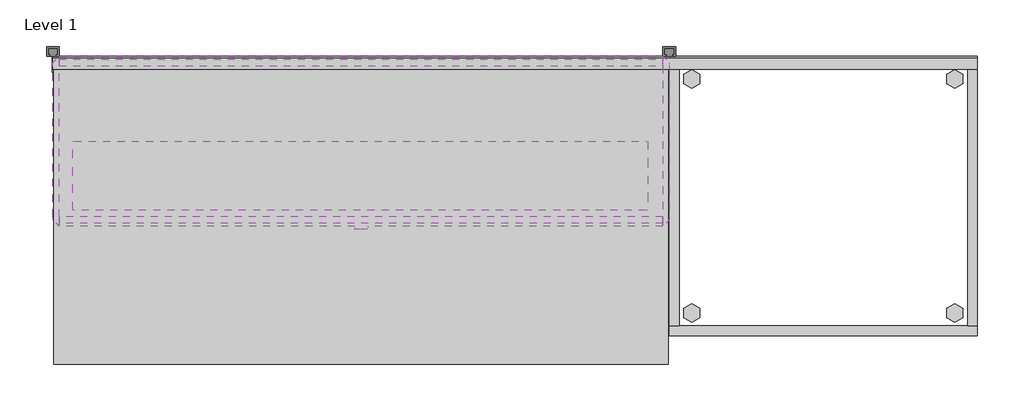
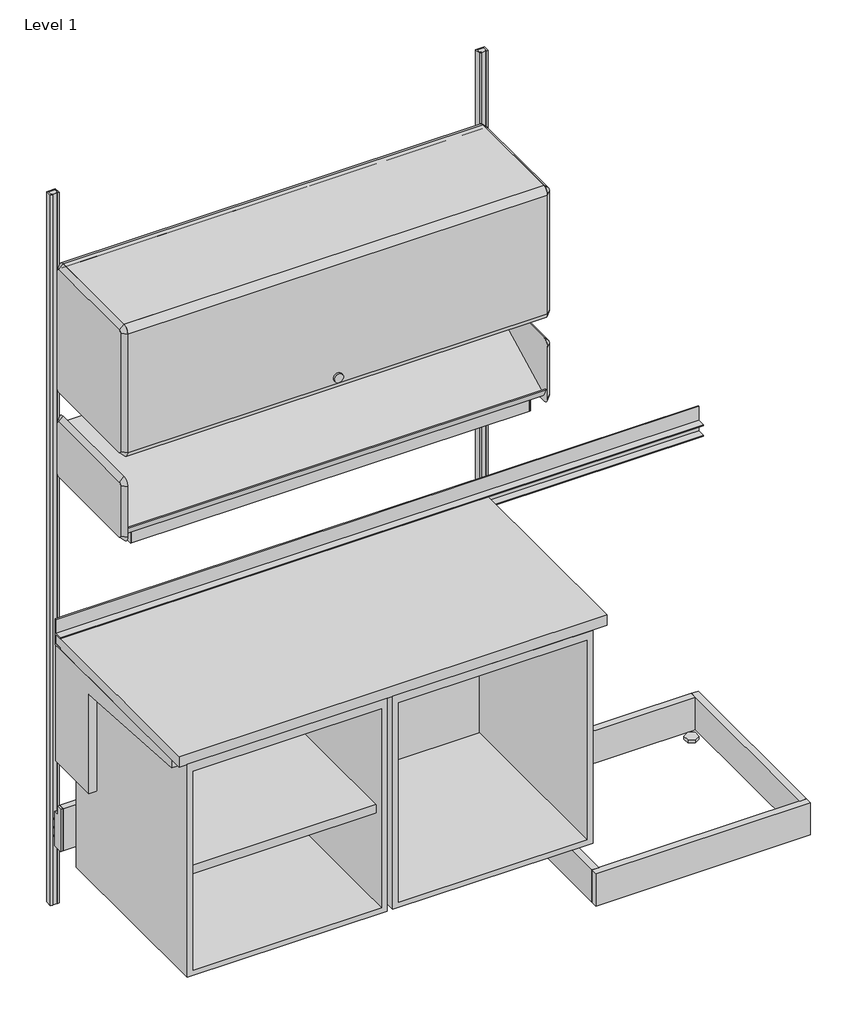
# One storey, incomplete: 13 furniture elements, 1 light fixture.
"""IFC4 building model written with IfcOpenShell, lengths in millimetres."""

import ifcopenshell
import ifcopenshell.guid

model = None  # the IFC model being written
_history = None  # IfcOwnerHistory: only IFC2X3 demands one
_inside = {}  # id of a spatial element -> (the spatial element, [elements in it])
_under = {}  # id of a project, library or spatial element -> (it, [spatial elements below it])
_declared = {}  # id of a project -> (the project, [libraries it declares])
_typed = {}  # id of a type object -> (the type object, [elements of that type])
_made_of = {}  # id of a material, layer set ... -> (it, [elements and type objects made of it])


def new_model(schema):
    """Start an empty IFC model of exactly this schema.

    Asked for "IFC4X3", IfcOpenShell would pick the latest addendum, in which some entities
    have other attributes; the version numbers below select the first issue.
    IFC2X3 requires an IfcOwnerHistory on every rooted entity: one is made here for all.
    """
    global model, _history
    if schema == "IFC4X3":
        model = ifcopenshell.file(schema_version=(4, 3, 0, 0))
    else:
        model = ifcopenshell.file(schema=schema)
    _inside.clear()
    _under.clear()
    _declared.clear()
    _typed.clear()
    _made_of.clear()
    _history = None
    if model.schema == "IFC2X3":
        org = make("IfcOrganization", Name="unknown")
        user = make(
            "IfcPersonAndOrganization",
            ThePerson=make("IfcPerson", FamilyName="unknown"),
            TheOrganization=org,
        )
        app = make(
            "IfcApplication",
            ApplicationDeveloper=org,
            Version="unknown",
            ApplicationFullName="unknown",
            ApplicationIdentifier="unknown",
        )
        _history = make(
            "IfcOwnerHistory",
            OwningUser=user,
            OwningApplication=app,
            ChangeAction="ADDED",
            CreationDate=0,
        )
    return model


def make(cls, **values):
    """One entity of the class cls with the attributes given. An attribute that is None is left unset."""
    return model.create_entity(
        cls, **{name: value for name, value in values.items() if value is not None}
    )


def rooted(cls, **values):
    """An entity with a GlobalId (a new one), such as an element, a storey or a relation."""
    return make(cls, GlobalId=ifcopenshell.guid.new(), OwnerHistory=_history, **values)


def si_unit(unit_type, name, prefix=None):
    """IfcSIUnit, for example si_unit("LENGTHUNIT", "METRE", prefix="MILLI")."""
    return make("IfcSIUnit", UnitType=unit_type, Prefix=prefix, Name=name)


def assignment(units):
    """IfcUnitAssignment: the units of a project."""
    return None if units is None else make("IfcUnitAssignment", Units=units)


def point(xyz):
    """IfcCartesianPoint."""
    return None if xyz is None else make("IfcCartesianPoint", Coordinates=xyz)


def direction(xyz):
    """IfcDirection."""
    return None if xyz is None else make("IfcDirection", DirectionRatios=xyz)


def frame(location, z_axis=None, x_axis=None):
    """IfcAxis2Placement3D, a coordinate frame: its origin and axes. An axis left out is left unset."""
    return make(
        "IfcAxis2Placement3D",
        Location=point(location),
        Axis=direction(z_axis),
        RefDirection=direction(x_axis),
    )


def frame_2d(location, x_axis=None):
    """IfcAxis2Placement2D, a coordinate frame in the plane: its origin and x axis."""
    return make(
        "IfcAxis2Placement2D", Location=point(location), RefDirection=direction(x_axis)
    )


def origin():
    """The frame at (0, 0, 0) with its axes left unset."""
    return frame((0.0, 0.0, 0.0))


def origin_with_axes():
    """The frame at (0, 0, 0) with the z axis (0, 0, 1) and the x axis (1, 0, 0) written out."""
    return frame((0.0, 0.0, 0.0), z_axis=(0.0, 0.0, 1.0), x_axis=(1.0, 0.0, 0.0))


def place(relative_to, where):
    """IfcLocalPlacement: puts the frame where relative to a parent placement (None: the world)."""
    return make(
        "IfcLocalPlacement", PlacementRelTo=relative_to, RelativePlacement=where
    )


def context(
    kind, dimensions, precision=None, world=None, true_north=None, identifier=None
):
    """IfcGeometricRepresentationContext, for example the 3D "Model" context."""
    return make(
        "IfcGeometricRepresentationContext",
        ContextIdentifier=identifier,
        ContextType=kind,
        CoordinateSpaceDimension=dimensions,
        Precision=precision,
        WorldCoordinateSystem=world,
        TrueNorth=true_north,
    )


def project(units=None, contexts=None):
    """IfcProject with its units and contexts."""
    return rooted(
        "IfcProject",
        Name="project",
        RepresentationContexts=contexts,
        UnitsInContext=assignment(units),
    )


def spatial(cls, under=None, at=None, **own):
    """A site, building, storey or space (cls), placed at a placement, below another one or the project."""
    s = rooted(cls, ObjectPlacement=at, **own)
    if under is not None:
        _under.setdefault(under.id(), (under, []))[1].append(s)
    return s


def polyline(points):
    """IfcPolyline through the points."""
    return make("IfcPolyline", Points=[point(p) for p in points])


def circle_curve(where, radius):
    """IfcCircle in the frame where."""
    return make("IfcCircle", Position=where, Radius=radius)


def trimmed(basis, trim1, trim2, sense, master):
    """IfcTrimmedCurve: the piece of a basis curve between two trims."""
    return make(
        "IfcTrimmedCurve",
        BasisCurve=basis,
        Trim1=trim1,
        Trim2=trim2,
        SenseAgreement=sense,
        MasterRepresentation=master,
    )


def segment(curve, same_sense, transition):
    """IfcCompositeCurveSegment."""
    return make(
        "IfcCompositeCurveSegment",
        Transition=transition,
        SameSense=same_sense,
        ParentCurve=curve,
    )


def composite_curve(segments, self_intersect=None):
    """IfcCompositeCurve: segments joined end to end."""
    return make("IfcCompositeCurve", Segments=segments, SelfIntersect=self_intersect)


def outline(outer, holes=None, kind="AREA"):
    """IfcArbitraryClosedProfileDef: a profile drawn as a closed curve; with holes, ...WithVoids."""
    if holes is None:
        return make("IfcArbitraryClosedProfileDef", ProfileType=kind, OuterCurve=outer)
    return make(
        "IfcArbitraryProfileDefWithVoids",
        ProfileType=kind,
        OuterCurve=outer,
        InnerCurves=holes,
    )


def extrude(swept, where, along, depth):
    """IfcExtrudedAreaSolid: the profile swept, set in the frame where, extruded along a direction by depth."""
    return make(
        "IfcExtrudedAreaSolid",
        SweptArea=swept,
        Position=where,
        ExtrudedDirection=direction(along),
        Depth=depth,
    )


def faces_of(points, faces, orient=None, outer=None):
    """IfcFace entities. A face is a list of loops; a loop is a list of indices into points, from 0.

    orient and outer hold one flag for each loop. By default every Orientation is true, the
    first loop of a face is its IfcFaceOuterBound and the others are IfcFaceBound.
    """
    made = []
    for i, loops in enumerate(faces):
        bounds = []
        for j, loop in enumerate(loops):
            is_outer = j == 0 if outer is None else outer[i][j]
            bounds.append(
                make(
                    "IfcFaceOuterBound" if is_outer else "IfcFaceBound",
                    Bound=make("IfcPolyLoop", Polygon=[points[k] for k in loop]),
                    Orientation=True if orient is None else orient[i][j],
                )
            )
        made.append(make("IfcFace", Bounds=bounds))
    return made


def faceted_brep(points, faces, orient=None, outer=None, voids=None):
    """IfcFacetedBrep: a solid bounded by flat faces; with voids (closed shells), ...WithVoids."""
    shared = [point(p) for p in points]
    hull = make("IfcClosedShell", CfsFaces=faces_of(shared, faces, orient, outer))
    if voids is None:
        return make("IfcFacetedBrep", Outer=hull)
    return make(
        "IfcFacetedBrepWithVoids",
        Outer=hull,
        Voids=[
            make(cls, CfsFaces=faces_of(shared, fs, o, b)) for cls, fs, o, b in voids
        ],
    )


def shape(context_of_items, identifier, shape_type, items):
    """IfcShapeRepresentation: the items that make up one representation, for example the "Body"."""
    return make(
        "IfcShapeRepresentation",
        ContextOfItems=context_of_items,
        RepresentationIdentifier=identifier,
        RepresentationType=shape_type,
        Items=items,
    )


def source(mapping_origin, context_of_items, identifier, shape_type, items):
    """IfcRepresentationMap: a shape defined once, which mapped items show again and again."""
    return make(
        "IfcRepresentationMap",
        MappingOrigin=mapping_origin,
        MappedRepresentation=shape(context_of_items, identifier, shape_type, items),
    )


def transform(
    local_origin,
    x_axis=None,
    y_axis=None,
    z_axis=None,
    scale=None,
    scale2=None,
    scale3=None,
    uniform=True,
):
    """IfcCartesianTransformationOperator3D, or its non-uniform kind. x_axis, y_axis, z_axis: its Axis1, 2, 3."""
    if uniform:
        return make(
            "IfcCartesianTransformationOperator3D",
            Axis1=direction(x_axis),
            Axis2=direction(y_axis),
            LocalOrigin=point(local_origin),
            Scale=scale,
            Axis3=direction(z_axis),
        )
    return make(
        "IfcCartesianTransformationOperator3DnonUniform",
        Axis1=direction(x_axis),
        Axis2=direction(y_axis),
        LocalOrigin=point(local_origin),
        Scale=scale,
        Axis3=direction(z_axis),
        Scale2=scale2,
        Scale3=scale3,
    )


def mapped(mapping_source, mapping_target):
    """IfcMappedItem: shows the shape of a source again, moved by a transform."""
    return make(
        "IfcMappedItem", MappingSource=mapping_source, MappingTarget=mapping_target
    )


def made_of(thing, what):
    """Note that an element or type object is made of a material, layer set ...; save() writes the relation."""
    if what is not None:
        _made_of.setdefault(what.id(), (what, []))[1].append(thing)
    return thing


def element(
    cls,
    number,
    at=None,
    inside=None,
    cuts=None,
    type_object=None,
    material=None,
    context=None,
    identifier="Body",
    shape_type=None,
    held_by="IfcProductDefinitionShape",
    body=None,
    shapes=None,
    **own,
):
    """One element of the class cls, such as IfcWall. Its Tag is "e" and its number.

    at: its placement. inside: the storey or other place that contains it. cuts: it is an
    opening in that element (IfcRelVoidsElement). A single representation is given by context,
    identifier, shape_type and body (its items); several are given by shapes. held_by: the class
    of the entity that holds the representations. save() writes the other relations.
    """
    e = rooted(cls, Tag="e%d" % number, ObjectPlacement=at, **own)
    if body is not None:
        shapes = [shape(context, identifier, shape_type, body)]
    if shapes is not None:
        e.Representation = make(held_by, Representations=shapes)
    if inside is not None:
        _inside.setdefault(inside.id(), (inside, []))[1].append(e)
    if cuts is not None:
        rooted(
            "IfcRelVoidsElement", RelatingBuildingElement=cuts, RelatedOpeningElement=e
        )
    if type_object is not None:
        _typed.setdefault(type_object.id(), (type_object, []))[1].append(e)
    return made_of(e, material)


def aggregate(whole, parts):
    """IfcRelAggregates: a whole, such as a stair, and the parts it consists of."""
    return rooted("IfcRelAggregates", RelatingObject=whole, RelatedObjects=parts)


def save(model, path):
    """Write the relations noted so far, then the file.

    IfcRelAggregates (storeys below a building ...), IfcRelContainedInSpatialStructure (elements
    in a storey), IfcRelDefinesByType, IfcRelAssociatesMaterial and IfcRelDeclares: one each for
    every whole, place, type object, material and project.
    """
    for whole, parts in _under.values():
        aggregate(whole, parts)
    for where, things in _inside.values():
        rooted(
            "IfcRelContainedInSpatialStructure",
            RelatedElements=things,
            RelatingStructure=where,
        )
    for kind, things in _typed.values():
        rooted("IfcRelDefinesByType", RelatedObjects=things, RelatingType=kind)
    for what, things in _made_of.values():
        rooted("IfcRelAssociatesMaterial", RelatedObjects=things, RelatingMaterial=what)
    for by, libraries in _declared.values():
        rooted("IfcRelDeclares", RelatingContext=by, RelatedDefinitions=libraries)
    model.write(path)


def plane_surface(at):
    """IfcPlane: the flat surface through the origin of the frame at, square to its z axis."""
    return make("IfcPlane", Position=at)


def revolved_surface(curve, axis_point, axis_direction):
    """IfcSurfaceOfRevolution: the curve turned about the line through axis_point along axis_direction."""
    return make(
        "IfcSurfaceOfRevolution",
        SweptCurve=make("IfcArbitraryOpenProfileDef", ProfileType="CURVE", Curve=curve),
        AxisPosition=make("IfcAxis1Placement", Location=point(axis_point), Axis=direction(axis_direction)),
    )


def advanced_brep(points, edges, surfaces, faces):
    """IfcAdvancedBrep: a solid bounded by faces that lie on surfaces and meet in shared edges.

    An edge is (start, end): straight between two places in points (the first is 0);
    or (start, end, curve); or (start, end, curve, False) where it runs against its curve.
    A face is (place in surfaces, loops), or (place, loops, False) where it looks against
    its surface's normal. A loop lists edges by number (the first is 1), with a minus sign
    where the edge is run from its end to its start. The first loop is the outer one.
    """
    corners = [point(p) for p in points]
    vertices = [make("IfcVertexPoint", VertexGeometry=c) for c in corners]
    made = []
    for start, end, *more in edges:
        made.append(
            make(
                "IfcEdgeCurve",
                EdgeStart=vertices[start],
                EdgeEnd=vertices[end],
                EdgeGeometry=more[0] if more else make("IfcPolyline", Points=[corners[start], corners[end]]),
                SameSense=more[1] if len(more) > 1 else True,
            )
        )
    hull = []
    for where, loops, *sense in faces:
        bounds = []
        for j, loop in enumerate(loops):
            ring = [make("IfcOrientedEdge", EdgeElement=made[abs(k) - 1], Orientation=k > 0) for k in loop]
            bounds.append(
                make(
                    "IfcFaceOuterBound" if j == 0 else "IfcFaceBound",
                    Bound=make("IfcEdgeLoop", EdgeList=ring),
                    Orientation=True,
                )
            )
        hull.append(make("IfcAdvancedFace", Bounds=bounds, FaceSurface=surfaces[where], SameSense=sense[0] if sense else True))
    return make("IfcAdvancedBrep", Outer=make("IfcClosedShell", CfsFaces=hull))


def furniture_8d228605(model_context):
    return source(origin(), model_context, "Body", "SolidModel", [
        extrude(outline(polyline([(-136.525, 1219.2), (158.75, 1219.2), (158.75, 1244.6), (161.925, 1244.6), (161.925, 1200.1152313), (-136.525, 1200.1152313), (-136.525, 1219.2)])), frame((-720.8420045, 0.0, 0.0), z_axis=(1.0, 0.0, 0.0), x_axis=(0.0, 1.0, 0.0)), (0.0, 0.0, 1.0), 1193.8),
        advanced_brep(
        [(472.9579955, -155.575, 1555.75), (472.9579955, -155.575, 1200.15), (485.6579955, -142.875, 1200.15), (485.6579955, -142.875, 1555.75), (485.6579955, 161.925, 1562.1), (485.6579955, -136.525, 1562.1), (485.6579955, -136.525, 1193.8), (485.6579955, 161.925, 1193.8), (485.6579955, 168.275, 1200.15), (485.6579955, 168.275, 1555.75), (472.9579955, -136.525, 1181.1), (472.9579955, 161.925, 1181.1), (472.9579955, 180.975, 1200.15), (472.9579955, 180.975, 1555.75), (472.9579955, 161.925, 1574.8), (472.9579955, -136.525, 1574.8)],
        [
            (0, 1),
            (1, 2),
            (2, 3),
            (3, 0),
            (4, 5),
            (5, 3, circle_curve(frame((485.6579955, -136.525, 1555.75), z_axis=(1.0, 0.0, 0.0), x_axis=(0.0, 0.0, 1.0)), 6.35)),
            (2, 6, circle_curve(frame((485.6579955, -136.525, 1200.15), z_axis=(1.0, 0.0, 0.0), x_axis=(0.0, -1.0, 0.0)), 6.35)),
            (6, 7),
            (7, 8, circle_curve(frame((485.6579955, 161.925, 1200.15), z_axis=(1.0, 0.0, 0.0), x_axis=(0.0, 0.0, -1.0)), 6.35)),
            (8, 9),
            (9, 4, circle_curve(frame((485.6579955, 161.925, 1555.75), z_axis=(1.0, 0.0, 0.0), x_axis=(0.0, 1.0, 0.0)), 6.35)),
            (1, 10, circle_curve(frame((472.9579955, -136.525, 1200.15), z_axis=(1.0, 0.0, 0.0), x_axis=(0.0, -1.0, 0.0)), 19.05)),
            (10, 6),
            (10, 11),
            (11, 7),
            (11, 12, circle_curve(frame((472.9579955, 161.925, 1200.15), z_axis=(1.0, 0.0, 0.0), x_axis=(0.0, 0.0, -1.0)), 19.05)),
            (12, 8),
            (12, 13),
            (13, 9),
            (14, 13, circle_curve(frame((472.9579955, 161.925, 1555.75), z_axis=(-1.0, 0.0, 0.0), x_axis=(0.0, 1.0, 0.0)), 19.05)),
            (0, 15, circle_curve(frame((472.9579955, -136.525, 1555.75), z_axis=(-1.0, 0.0, 0.0), x_axis=(0.0, 0.0, 1.0)), 19.05)),
            (15, 14),
            (15, 5),
            (4, 14),
        ],
        [
            plane_surface(frame((472.9579955, -155.575, 1377.95), z_axis=(0.7071067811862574, -0.7071067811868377, 0.0), x_axis=(0.0, 0.0, -1.0))),
            plane_surface(frame((485.6579955, 12.7, 1377.95), z_axis=(1.0, 0.0, 0.0), x_axis=(0.0, -1.0, 0.0))),
            revolved_surface(polyline([(485.6579955, -142.87499999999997, 1200.15), (472.9579955, -155.575, 1200.15)]), (492.0079955, -136.525, 1200.15), (-1.0, 0.0, 0.0)),
            plane_surface(frame((472.9579955, 12.7, 1181.1), z_axis=(0.7071067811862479, 0.0, -0.7071067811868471), x_axis=(0.0, 1.0, 0.0))),
            revolved_surface(polyline([(485.6579955, 161.925, 1193.8000000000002), (472.9579955, 161.925, 1181.1)]), (492.0079955, 161.925, 1200.15), (-1.0, 0.0, 0.0)),
            plane_surface(frame((472.9579955, 180.975, 1377.95), z_axis=(0.7071067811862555, 0.7071067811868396, 0.0), x_axis=(0.0, 0.0, 1.0))),
            plane_surface(frame((472.9579955, 12.7, 1377.95), z_axis=(-1.0, 0.0, 0.0), x_axis=(0.0, -1.0, 0.0))),
            plane_surface(frame((472.9579955, 12.7, 1574.8), z_axis=(0.7071067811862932, 0.0, 0.7071067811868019), x_axis=(0.0, -1.0, 0.0))),
            revolved_surface(polyline([(485.6579955, -136.525, 1562.1), (472.9579955, -136.525, 1574.8)]), (492.0079955, -136.525, 1555.75), (-1.0, 0.0, 0.0)),
            revolved_surface(polyline([(485.6579955, 168.27499999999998, 1555.75), (472.9579955, 180.975, 1555.75)]), (492.0079955, 161.925, 1555.75), (-1.0, 0.0, 0.0)),
        ],
        [
            (0, [[1, 2, 3, 4]]),
            (1, [[5, 6, -3, 7, 8, 9, 10, 11]]),
            (2, [[12, 13, -7, -2]]),
            (3, [[14, 15, -8, -13]]),
            (4, [[16, 17, -9, -15]]),
            (5, [[18, 19, -10, -17]]),
            (6, [[20, -18, -16, -14, -12, -1, 21, 22]]),
            (7, [[-22, 23, -5, 24]]),
            (8, [[-21, -4, -6, -23]]),
            (9, [[-20, -24, -11, -19]]),
        ],
    ),
        advanced_brep(
        [(-720.8420045, 180.975, 1555.75), (-720.8420045, 180.975, 1200.15), (-733.5420045, 168.275, 1200.15), (-733.5420045, 168.275, 1555.75), (-733.5420045, -136.525, 1562.1), (-733.5420045, 161.925, 1562.1), (-733.5420045, 161.925, 1193.8), (-733.5420045, -136.525, 1193.8), (-733.5420045, -142.875, 1200.15), (-733.5420045, -142.875, 1555.75), (-720.8420045, 161.925, 1181.1), (-720.8420045, -136.525, 1181.1), (-720.8420045, -155.575, 1200.15), (-720.8420045, -155.575, 1555.75), (-720.8420045, -136.525, 1574.8), (-720.8420045, 161.925, 1574.8)],
        [
            (0, 1),
            (1, 2),
            (2, 3),
            (3, 0),
            (4, 5),
            (5, 3, circle_curve(frame((-733.5420045, 161.925, 1555.75), z_axis=(-1.0, 4.822808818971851e-12, 2.32347474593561e-12), x_axis=(2.323422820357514e-12, 0.0, 1.0)), 6.35)),
            (2, 6, circle_curve(frame((-733.5420045, 161.925, 1200.15), z_axis=(-1.0, 1.0604850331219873e-12, 7.204903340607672e-12), x_axis=(1.060440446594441e-12, 1.0, 0.0)), 6.35)),
            (6, 7),
            (7, 8, circle_curve(frame((-733.5420045, -136.525, 1200.15), z_axis=(-1.0, 1.4002132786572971e-12, 0.0), x_axis=(0.0, 0.0, -1.0)), 6.35)),
            (8, 9),
            (9, 4, circle_curve(frame((-733.5420045, -136.525, 1555.75), z_axis=(-1.0, 0.0, 3.048228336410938e-12), x_axis=(0.0, -1.0, 0.0)), 6.35)),
            (1, 10, circle_curve(frame((-720.8420045, 161.925, 1200.15), z_axis=(-1.0, 1.0604850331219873e-12, 7.204903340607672e-12), x_axis=(1.060440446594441e-12, 1.0, 0.0)), 19.05)),
            (10, 6),
            (10, 11),
            (11, 7),
            (11, 12, circle_curve(frame((-720.8420045, -136.525, 1200.15), z_axis=(-1.0, 1.4002132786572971e-12, 0.0), x_axis=(0.0, 0.0, -1.0)), 19.05)),
            (12, 8),
            (12, 13),
            (13, 9),
            (14, 13, circle_curve(frame((-720.8420045, -136.525, 1555.75), z_axis=(1.0, 0.0, -3.048228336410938e-12), x_axis=(0.0, -1.0, 0.0)), 19.05)),
            (0, 15, circle_curve(frame((-720.8420045, 161.925, 1555.75), z_axis=(1.0, -4.822808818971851e-12, -2.32347474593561e-12), x_axis=(2.323422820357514e-12, 0.0, 1.0)), 19.05)),
            (15, 14),
            (15, 5),
            (4, 14),
        ],
        [
            plane_surface(frame((-720.8420045, 180.975, 1377.95), z_axis=(-0.7071067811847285, 0.7071067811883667, 0.0), x_axis=(0.0, 0.0, -1.0))),
            plane_surface(frame((-733.5420045, 12.7, 1377.95), z_axis=(-1.0, 0.0, 0.0), x_axis=(0.0, -1.0, 0.0))),
            revolved_surface(polyline([(-733.5420045, 168.27500000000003, 1200.15), (-720.8420044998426, 180.97500000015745, 1200.15)]), (-739.8920045, 161.925, 1200.15), (1.0, -1.0604850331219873e-12, -7.204903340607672e-12)),
            plane_surface(frame((-720.8420045, 12.7, 1181.1), z_axis=(-0.7071067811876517, 0.0, -0.7071067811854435), x_axis=(0.0, -1.0, 0.0))),
            revolved_surface(polyline([(-733.5420045, -136.525, 1193.8), (-720.8420044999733, -136.525, 1181.0999999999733)]), (-739.8920045, -136.525, 1200.15), (1.0, -1.4002132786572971e-12, 0.0)),
            plane_surface(frame((-720.8420045, -155.575, 1377.95), z_axis=(-0.7071067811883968, -0.7071067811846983, 0.0), x_axis=(0.0, 0.0, 1.0))),
            plane_surface(frame((-720.8420045, 12.7, 1377.95), z_axis=(1.0, 0.0, 0.0), x_axis=(0.0, -1.0, 0.0))),
            plane_surface(frame((-720.8420045, 12.7, 1574.8), z_axis=(-0.7071067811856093, 0.0, 0.7071067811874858), x_axis=(0.0, 1.0, 0.0))),
            revolved_surface(polyline([(-733.5420045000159, 161.925, 1562.0999999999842), (-720.8420044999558, 161.925, 1574.8000000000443)]), (-739.8920045, 161.925, 1555.75), (1.0, -4.822808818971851e-12, -2.32347474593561e-12)),
            revolved_surface(polyline([(-733.5420045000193, -142.87499999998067, 1555.75), (-720.8420045, -155.575, 1555.75)]), (-739.8920045, -136.525, 1555.75), (1.0, 0.0, -3.048228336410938e-12)),
        ],
        [
            (0, [[1, 2, 3, 4]]),
            (1, [[5, 6, -3, 7, 8, 9, 10, 11]]),
            (2, [[12, 13, -7, -2]]),
            (3, [[14, 15, -8, -13]]),
            (4, [[16, 17, -9, -15]]),
            (5, [[18, 19, -10, -17]]),
            (6, [[20, -18, -16, -14, -12, -1, 21, 22]]),
            (7, [[-22, 23, -5, 24]]),
            (8, [[-21, -4, -6, -23]]),
            (9, [[-20, -24, -11, -19]]),
        ],
    ),
    ])


def furniture_ebb16344(model_context):
    return source(origin(), model_context, "Body", "SweptSolid", [
        extrude(outline(composite_curve([segment(polyline([(-136.525, 1562.1), (-136.525, 1574.8), (161.925, 1574.8)]), True, "CONTINUOUS"), segment(trimmed(circle_curve(frame_2d((161.925, 1555.75)), 19.05), [point((161.925, 1574.8))], [point((180.975, 1555.75))], False, "CARTESIAN"), True, "CONTINUOUS"), segment(polyline([(180.975, 1555.75), (168.275, 1555.75)]), True, "CONTINUOUS"), segment(trimmed(circle_curve(frame_2d((161.925, 1555.75)), 6.35), [point((168.275, 1555.75))], [point((161.925, 1562.1))], True, "CARTESIAN"), True, "CONTINUOUS"), segment(polyline([(161.925, 1562.1), (-136.525, 1562.1)]), True, "CONTINUOUS")], self_intersect=False)), frame((-596.9, 0.0, 0.0), z_axis=(1.0, 0.0, 0.0), x_axis=(0.0, 1.0, 0.0)), (0.0, 0.0, 1.0), 1193.8),
        extrude(outline(composite_curve([segment(trimmed(circle_curve(frame_2d((-136.525, 1555.75)), 19.05), [point((-155.575, 1555.75))], [point((-136.525, 1574.8))], False, "CARTESIAN"), True, "CONTINUOUS"), segment(polyline([(-136.525, 1574.8), (-136.525, 1181.1)]), True, "CONTINUOUS"), segment(trimmed(circle_curve(frame_2d((-136.525, 1200.15)), 19.05), [point((-136.525, 1181.1))], [point((-155.575, 1200.15))], False, "CARTESIAN"), True, "CONTINUOUS"), segment(polyline([(-155.575, 1200.15), (-155.575, 1555.75)]), True, "CONTINUOUS")], self_intersect=False)), frame((-596.9, 0.0, 0.0), z_axis=(1.0, 0.0, 0.0), x_axis=(0.0, 1.0, 0.0)), (0.0, 0.0, 1.0), 1193.8),
        extrude(outline(composite_curve([segment(trimmed(circle_curve(frame_2d((1219.1618906, 0.0201199)), 12.7253951), [point((1219.1618906, 12.745515))], [point((1219.1618906, -12.7052752))], False, "CARTESIAN"), True, "CONTINUOUS"), segment(trimmed(circle_curve(frame_2d((1219.1618906, 0.0201199)), 12.7253951), [point((1219.1618906, -12.7052752))], [point((1219.1618906, 12.745515))], False, "CARTESIAN"), True, "CONTINUOUS")], self_intersect=False)), frame((0.0, -161.925, 0.0), z_axis=(0.0, 1.0, 0.0), x_axis=(0.0, 0.0, 1.0)), (0.0, 0.0, 1.0), 6.35),
    ])


def furniture_d92eedc3(model_context):
    return source(origin(), model_context, "Body", "SweptSolid", [
        extrude(outline(polyline([(-3.175, 958.85), (0.0, 958.85), (0.0, 882.65), (-25.4, 882.65), (-25.4, 885.825), (-3.175, 885.825), (-3.175, 914.4), (-25.4, 914.4), (-25.4, 917.575), (-3.175, 917.575), (-3.175, 958.85)])), frame((-914.4, 0.0, 0.0), z_axis=(1.0, 0.0, 0.0), x_axis=(0.0, 1.0, 0.0)), (0.0, 0.0, 1.0), 1828.8),
    ])


def furniture_0d7dd6e3(model_context):
    return source(origin(), model_context, "Body", "Brep", [
        faceted_brep([(-284.1625, -272.8595, 242.8748), (284.1625, -272.8595, 242.8748), (284.1625, -272.8595, 882.65), (-284.1625, -272.8595, 882.65), (267.8811, -272.8595, 259.1562), (-267.8811, -272.8595, 259.1562), (-267.8811, -272.8595, 857.25), (267.8811, -272.8595, 857.25), (267.8811, 256.5781, 259.1562), (-267.8811, 256.5781, 259.1562), (-267.8811, 256.5781, 882.65), (-267.8811, 171.2595, 882.65), (-267.8811, 171.2595, 831.85), (-267.8811, 120.4595, 831.85), (-267.8811, 120.4595, 882.65), (-267.8811, 107.7595, 882.65), (-267.8811, 107.7595, 857.25), (267.8811, 107.7595, 857.25), (267.8811, 107.7595, 882.65), (267.8811, 120.4595, 882.65), (267.8811, 120.4595, 831.85), (267.8811, 171.2595, 831.85), (267.8811, 171.2595, 882.65), (267.8811, 256.5781, 882.65), (-284.1625, 272.8595, 242.8748), (284.1625, 272.8595, 242.8748), (284.1625, 272.8595, 882.65), (284.1625, 171.2595, 882.65), (284.1625, 171.2595, 831.85), (284.1625, 120.4595, 831.85), (284.1625, 120.4595, 882.65), (-284.1625, 120.4595, 882.65), (-284.1625, 272.8595, 882.65), (-284.1625, 171.2595, 882.65), (-284.1625, 120.4595, 831.85), (-284.1625, 171.2595, 831.85)], [[[0, 1, 2, 3], [4, 5, 6, 7]], [[5, 4, 8, 9]], [[6, 5, 9, 10, 11, 12, 13, 14, 15, 16]], [[7, 6, 16, 17]], [[4, 7, 17, 18, 19, 20, 21, 22, 23, 8]], [[1, 0, 24, 25]], [[2, 1, 25, 26, 27, 28, 29, 30]], [[3, 2, 30, 19, 18, 15, 14, 31]], [[26, 32, 33, 11, 10, 23, 22, 27]], [[0, 3, 31, 34, 35, 33, 32, 24]], [[12, 35, 34, 13]], [[28, 21, 20, 29]], [[22, 21, 28, 27]], [[35, 12, 11, 33]], [[14, 13, 34, 31]], [[29, 20, 19, 30]], [[32, 26, 25, 24]], [[10, 9, 8, 23]], [[16, 15, 18, 17]]]),
    ])


def furniture_de886b3f(model_context):
    return source(origin(), model_context, "Body", "SweptSolid", [
        extrude(outline(polyline([(912.8125, 177.8), (912.8125, -431.8), (-303.2125, -431.8), (-303.2125, 177.8), (912.8125, 177.8)])), frame((0.0, 0.0, 882.65), z_axis=(0.0, 0.0, 1.0), x_axis=(1.0, 0.0, 0.0)), (0.0, 0.0, 1.0), 31.75),
        extrude(outline(polyline([(879.475, 63.5), (879.475, 25.4), (-269.875, 25.4), (-269.875, 63.5), (879.475, 63.5)])), frame((0.0, 0.0, 825.5), z_axis=(0.0, 0.0, 1.0), x_axis=(1.0, 0.0, 0.0)), (0.0, 0.0, 1.0), 57.15),
        extrude(outline(polyline([(858.8375, 333.375), (882.65, 333.375), (882.65, 331.7875), (857.25, 331.7875), (857.25, 346.075), (858.8375, 346.075), (858.8375, 333.375)])), frame((0.0, -406.4, 0.0), z_axis=(0.0, 1.0, 0.0), x_axis=(0.0, 0.0, 1.0)), (0.0, 0.0, 1.0), 390.525),
        extrude(outline(polyline([(858.8375, 276.225), (858.8375, 263.525), (857.25, 263.525), (857.25, 277.8125), (882.65, 277.8125), (882.65, 276.225), (858.8375, 276.225)])), frame((0.0, -406.4, 0.0), z_axis=(0.0, 1.0, 0.0), x_axis=(0.0, 0.0, 1.0)), (0.0, 0.0, 1.0), 390.525),
        extrude(outline(polyline([(858.8375, -250.825), (882.65, -250.825), (882.65, -252.4125), (857.25, -252.4125), (857.25, -238.125), (858.8375, -238.125), (858.8375, -250.825)])), frame((0.0, -406.4, 0.0), z_axis=(0.0, 1.0, 0.0), x_axis=(0.0, 0.0, 1.0)), (0.0, 0.0, 1.0), 390.525),
        extrude(outline(polyline([(858.8375, 860.425), (858.8375, 847.725), (857.25, 847.725), (857.25, 862.0125), (882.65, 862.0125), (882.65, 860.425), (858.8375, 860.425)])), frame((0.0, -406.4, 0.0), z_axis=(0.0, 1.0, 0.0), x_axis=(0.0, 0.0, 1.0)), (0.0, 0.0, 1.0), 390.525),
    ])


def furniture_05729c69(model_context):
    return source(origin(), model_context, "Body", "SweptSolid", [
        extrude(outline(polyline([(106.5641996, 262.7913812), (-425.2610004, 262.7913812), (-425.2610004, 797.7915812), (106.5641996, 797.7915812), (106.5641996, 262.7913812)])), frame((0.0, 0.0, 635.0), z_axis=(0.0, 0.0, 1.0), x_axis=(1.0, 0.0, 0.0)), (0.0, 0.0, 1.0), 25.4),
    ])


def furniture_4a924b53(model_context):
    return source(origin(), model_context, "Body", "SolidModel", [
        advanced_brep(
        [(485.6579955, 161.925, 1562.1), (485.6579955, -136.525, 1562.1), (485.6579955, -142.875, 1555.75), (485.6579955, -142.875, 1403.35), (485.6579955, -136.525, 1397.0), (485.6579955, 161.925, 1397.0), (485.6579955, 168.275, 1403.35), (485.6579955, 168.275, 1555.75), (472.9579955, 161.925, 1574.8), (472.9579955, 180.975, 1555.75), (472.9579955, 180.975, 1403.35), (472.9579955, 161.925, 1384.3), (472.9579955, -136.525, 1384.3), (472.9579955, -155.575, 1403.35), (472.9579955, -155.575, 1555.75), (472.9579955, -136.525, 1574.8)],
        [
            (0, 1),
            (1, 2, circle_curve(frame((485.6579955, -136.525, 1555.75), z_axis=(1.0, 2.0730084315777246e-12, -2.1529444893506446e-12), x_axis=(2.15291077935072e-12, 0.0, 1.0)), 6.35)),
            (2, 3),
            (3, 4, circle_curve(frame((485.6579955, -136.525, 1403.35), z_axis=(1.0, 2.0596857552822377e-12, 2.046363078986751e-12), x_axis=(2.059647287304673e-12, -1.0, 0.0)), 6.35)),
            (4, 5),
            (5, 6, circle_curve(frame((485.6579955, 161.925, 1403.35), z_axis=(1.0, 2.0889956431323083e-12, -2.0889956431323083e-12), x_axis=(-2.0890080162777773e-12, 0.0, -1.0)), 6.35)),
            (6, 7),
            (7, 0, circle_curve(frame((485.6579955, 161.925, 1555.75), z_axis=(1.0, 2.0783375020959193e-12, 2.003730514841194e-12), x_axis=(-2.0783313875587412e-12, 1.0, 0.0)), 6.35)),
            (8, 9, circle_curve(frame((472.9579955, 161.925, 1555.75), z_axis=(-1.0, -2.0783375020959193e-12, -2.003730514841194e-12), x_axis=(-2.0783313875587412e-12, 1.0, 0.0)), 19.05)),
            (9, 10),
            (10, 11, circle_curve(frame((472.9579955, 161.925, 1403.35), z_axis=(-1.0, -2.0889956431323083e-12, 2.0889956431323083e-12), x_axis=(-2.0890080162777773e-12, 0.0, -1.0)), 19.05)),
            (11, 12),
            (12, 13, circle_curve(frame((472.9579955, -136.525, 1403.35), z_axis=(-1.0, -2.0596857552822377e-12, -2.046363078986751e-12), x_axis=(2.059647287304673e-12, -1.0, 0.0)), 19.05)),
            (13, 14),
            (14, 15, circle_curve(frame((472.9579955, -136.525, 1555.75), z_axis=(-1.0, -2.0730084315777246e-12, 2.1529444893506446e-12), x_axis=(2.15291077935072e-12, 0.0, 1.0)), 19.05)),
            (15, 8),
            (15, 1),
            (0, 8),
            (14, 2),
            (13, 3),
            (12, 4),
            (11, 5),
            (10, 6),
            (9, 7),
        ],
        [
            plane_surface(frame((485.6579955, 12.7, 1479.55), z_axis=(1.0, 0.0, 0.0), x_axis=(0.0, -1.0, 0.0))),
            plane_surface(frame((472.9579955, 12.7, 1479.55), z_axis=(-1.0, 0.0, 0.0), x_axis=(0.0, -1.0, 0.0))),
            plane_surface(frame((472.9579955, 12.7, 1574.8), z_axis=(0.7071067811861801, 0.0, 0.707106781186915), x_axis=(0.0, -1.0, 0.0))),
            revolved_surface(polyline([(485.6579955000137, -136.525, 1562.0999999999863), (472.9579955, -136.525, 1574.8)]), (492.0079955, -136.525, 1555.75), (-1.0, -2.0730084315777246e-12, 2.1529444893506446e-12)),
            plane_surface(frame((472.9579955, -155.575, 1479.55), z_axis=(0.7071067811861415, -0.7071067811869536, 0.0), x_axis=(0.0, 0.0, -1.0))),
            revolved_surface(polyline([(485.6579955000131, -142.87499999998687, 1403.35), (472.9579955, -155.575, 1403.35)]), (492.0079955, -136.525, 1403.35), (-1.0, -2.0596857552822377e-12, -2.046363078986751e-12)),
            plane_surface(frame((472.9579955, 12.7, 1384.3), z_axis=(0.7071067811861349, 0.0, -0.7071067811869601), x_axis=(0.0, 1.0, 0.0))),
            revolved_surface(polyline([(485.6579955, 161.925, 1397.0), (472.9579954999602, 161.925, 1384.2999999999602)]), (492.0079955, 161.925, 1403.35), (-1.0, -2.0889956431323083e-12, 2.0889956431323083e-12)),
            plane_surface(frame((472.9579955, 180.975, 1479.55), z_axis=(0.7071067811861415, 0.7071067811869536, 0.0), x_axis=(0.0, 0.0, 1.0))),
            revolved_surface(polyline([(485.6579955, 168.27499999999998, 1555.75), (472.95799549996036, 180.97500000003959, 1555.75)]), (492.0079955, 161.925, 1555.75), (-1.0, -2.0783375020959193e-12, -2.003730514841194e-12)),
        ],
        [
            (0, [[1, 2, 3, 4, 5, 6, 7, 8]]),
            (1, [[9, 10, 11, 12, 13, 14, 15, 16]]),
            (2, [[-16, 17, -1, 18]]),
            (3, [[-15, 19, -2, -17]]),
            (4, [[-14, 20, -3, -19]]),
            (5, [[-13, 21, -4, -20]]),
            (6, [[-12, 22, -5, -21]]),
            (7, [[-11, 23, -6, -22]]),
            (8, [[-10, 24, -7, -23]]),
            (9, [[-9, -18, -8, -24]]),
        ],
    ),
        advanced_brep(
        [(-733.5420045, -136.525, 1562.1), (-733.5420045, 161.925, 1562.1), (-733.5420045, 168.275, 1555.75), (-733.5420045, 168.275, 1403.35), (-733.5420045, 161.925, 1397.0), (-733.5420045, -136.525, 1397.0), (-733.5420045, -142.875, 1403.35), (-733.5420045, -142.875, 1555.75), (-720.8420045, -136.525, 1574.8), (-720.8420045, -155.575, 1555.75), (-720.8420045, -155.575, 1403.35), (-720.8420045, -136.525, 1384.3), (-720.8420045, 161.925, 1384.3), (-720.8420045, 180.975, 1403.35), (-720.8420045, 180.975, 1555.75), (-720.8420045, 161.925, 1574.8)],
        [
            (0, 1),
            (1, 2, circle_curve(frame((-733.5420045, 161.925, 1555.75), z_axis=(-1.0, 0.0, 0.0), x_axis=(0.0, 0.0, 1.0)), 6.35)),
            (2, 3),
            (3, 4, circle_curve(frame((-733.5420045, 161.925, 1403.35), z_axis=(-1.0, 0.0, 0.0), x_axis=(0.0, 1.0, 0.0)), 6.35)),
            (4, 5),
            (5, 6, circle_curve(frame((-733.5420045, -136.525, 1403.35), z_axis=(-1.0, 0.0, 0.0), x_axis=(0.0, 0.0, -1.0)), 6.35)),
            (6, 7),
            (7, 0, circle_curve(frame((-733.5420045, -136.525, 1555.75), z_axis=(-1.0, 0.0, 0.0), x_axis=(0.0, -1.0, 0.0)), 6.35)),
            (8, 9, circle_curve(frame((-720.8420045, -136.525, 1555.75), z_axis=(1.0, 0.0, 0.0), x_axis=(0.0, -1.0, 0.0)), 19.05)),
            (9, 10),
            (10, 11, circle_curve(frame((-720.8420045, -136.525, 1403.35), z_axis=(1.0, 0.0, 0.0), x_axis=(0.0, 0.0, -1.0)), 19.05)),
            (11, 12),
            (12, 13, circle_curve(frame((-720.8420045, 161.925, 1403.35), z_axis=(1.0, 0.0, 0.0), x_axis=(0.0, 1.0, 0.0)), 19.05)),
            (13, 14),
            (14, 15, circle_curve(frame((-720.8420045, 161.925, 1555.75), z_axis=(1.0, 0.0, 0.0), x_axis=(0.0, 0.0, 1.0)), 19.05)),
            (15, 8),
            (15, 1),
            (0, 8),
            (14, 2),
            (13, 3),
            (12, 4),
            (11, 5),
            (10, 6),
            (9, 7),
        ],
        [
            plane_surface(frame((-733.5420045, 12.7, 1479.55), z_axis=(-1.0, 0.0, 0.0), x_axis=(0.0, -1.0, 0.0))),
            plane_surface(frame((-720.8420045, 12.7, 1479.55), z_axis=(1.0, 0.0, 0.0), x_axis=(0.0, -1.0, 0.0))),
            plane_surface(frame((-720.8420045, 12.7, 1574.8), z_axis=(-0.7071067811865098, 0.0, 0.7071067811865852), x_axis=(0.0, 1.0, 0.0))),
            revolved_surface(polyline([(-733.5420045, 161.925, 1562.1), (-720.8420045, 161.925, 1574.8)]), (-739.8920045, 161.925, 1555.75), (1.0, 0.0, 0.0)),
            plane_surface(frame((-720.8420045, 180.975, 1479.55), z_axis=(-0.7071067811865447, 0.7071067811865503, 0.0), x_axis=(0.0, 0.0, -1.0))),
            revolved_surface(polyline([(-733.5420045, 168.27500000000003, 1403.35), (-720.8420045, 180.975, 1403.35)]), (-739.8920045, 161.925, 1403.35), (1.0, 0.0, 0.0)),
            plane_surface(frame((-720.8420045, 12.7, 1384.3), z_axis=(-0.7071067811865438, 0.0, -0.7071067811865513), x_axis=(0.0, -1.0, 0.0))),
            revolved_surface(polyline([(-733.5420045, -136.525, 1397.0), (-720.8420045, -136.525, 1384.3)]), (-739.8920045, -136.525, 1403.35), (1.0, 0.0, 0.0)),
            plane_surface(frame((-720.8420045, -155.575, 1479.55), z_axis=(-0.7071067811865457, -0.7071067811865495, 0.0), x_axis=(0.0, 0.0, 1.0))),
            revolved_surface(polyline([(-733.5420045, -142.87500000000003, 1555.75), (-720.8420045, -155.575, 1555.75)]), (-739.8920045, -136.525, 1555.75), (1.0, 0.0, 0.0)),
        ],
        [
            (0, [[1, 2, 3, 4, 5, 6, 7, 8]]),
            (1, [[9, 10, 11, 12, 13, 14, 15, 16]]),
            (2, [[-16, 17, -1, 18]]),
            (3, [[-15, 19, -2, -17]]),
            (4, [[-14, 20, -3, -19]]),
            (5, [[-13, 21, -4, -20]]),
            (6, [[-12, 22, -5, -21]]),
            (7, [[-11, 23, -6, -22]]),
            (8, [[-10, 24, -7, -23]]),
            (9, [[-9, -18, -8, -24]]),
        ],
    ),
        extrude(outline(polyline([(-137.2094993, 1401.2179666), (-149.845093, 1425.6467844), (-147.0173828, 1427.0907216), (-135.8404765, 1405.4820334), (162.5893131, 1557.8717194), (175.2453599, 1534.2470972), (172.4171401, 1532.8028998), (161.2606869, 1553.6282806), (-137.2094993, 1401.2179666)])), frame((-720.8420045, 0.0, 0.0), z_axis=(1.0, 0.0, 0.0), x_axis=(0.0, 1.0, 0.0)), (0.0, 0.0, 1.0), 1193.8),
    ])


def furniture_40b373b2(model_context):
    return source(origin(), model_context, "Body", "SweptSolid", [
        extrude(outline(polyline([(548.9735422, -498.8179), (564.9214, -489.6104), (580.8692578, -498.8179), (580.8692578, -517.2329), (564.9214, -526.4404), (548.9735422, -517.2329), (548.9735422, -498.8179)])), origin_with_axes(), (0.0, 0.0, 1.0), 9.144),
        extrude(outline(polyline([(548.9735422, -35.4711), (564.9214, -26.2636), (580.8692578, -35.4711), (580.8692578, -53.8861), (564.9214, -63.0936), (548.9735422, -53.8861), (548.9735422, -35.4711)])), origin_with_axes(), (0.0, 0.0, 1.0), 9.144),
        extrude(outline(polyline([(28.7307422, -498.8179), (44.6786, -489.6104), (60.6264578, -498.8179), (60.6264578, -517.2329), (44.6786, -526.4404), (28.7307422, -517.2329), (28.7307422, -498.8179)])), origin_with_axes(), (0.0, 0.0, 1.0), 9.144),
        extrude(outline(polyline([(28.7307422, -35.4711), (44.6786, -26.2636), (60.6264578, -35.4711), (60.6264578, -53.8861), (44.6786, -63.0936), (28.7307422, -53.8861), (28.7307422, -35.4711)])), origin_with_axes(), (0.0, 0.0, 1.0), 9.144),
        extrude(outline(polyline([(19.304, 0.0), (19.304, -533.4), (0.0, -533.4), (0.0, 0.0), (19.304, 0.0)])), frame((0.0, 0.0, 4.699), z_axis=(0.0, 0.0, 1.0), x_axis=(1.0, 0.0, 0.0)), (0.0, 0.0, 1.0), 96.901),
        extrude(outline(polyline([(609.6, 0.0), (609.6, -533.4), (590.296, -533.4), (590.296, 0.0), (609.6, 0.0)])), frame((0.0, 0.0, 4.699), z_axis=(0.0, 0.0, 1.0), x_axis=(1.0, 0.0, 0.0)), (0.0, 0.0, 1.0), 96.901),
        extrude(outline(polyline([(590.296, -19.304), (19.304, -19.304), (19.304, 0.0), (590.296, 0.0), (590.296, -19.304)])), frame((0.0, 0.0, 4.699), z_axis=(0.0, 0.0, 1.0), x_axis=(1.0, 0.0, 0.0)), (0.0, 0.0, 1.0), 96.901),
        extrude(outline(polyline([(609.6, -533.4), (609.6, -552.704), (0.0, -552.704), (0.0, -533.4), (609.6, -533.4)])), frame((0.0, 0.0, 4.699), z_axis=(0.0, 0.0, 1.0), x_axis=(1.0, 0.0, 0.0)), (0.0, 0.0, 1.0), 96.901),
    ])


def furniture_13607bd2(model_context):
    return source(origin(), model_context, "Body", "SweptSolid", [
        extrude(outline(composite_curve([segment(polyline([(177.8, 882.65), (177.8, 533.4), (12.7, 533.4), (12.7, 831.85)]), True, "CONTINUOUS"), segment(trimmed(circle_curve(frame_2d((-388.143904, -2317.7524637)), 3175.0073252), [point((12.7, 831.85))], [point((-393.7, 857.25))], True, "CARTESIAN"), True, "CONTINUOUS"), segment(polyline([(-393.7, 857.25), (-393.7, 882.65), (177.8, 882.65)]), True, "CONTINUOUS")], self_intersect=False)), frame((574.675, 0.0, 0.0), z_axis=(1.0, 0.0, 0.0), x_axis=(0.0, 1.0, 0.0)), (0.0, 0.0, 1.0), 33.3375),
        extrude(outline(composite_curve([segment(polyline([(-393.7, 857.25), (-393.7, 882.65), (177.8, 882.65), (177.8, 533.4), (12.7, 533.4), (12.7, 831.85)]), True, "CONTINUOUS"), segment(trimmed(circle_curve(frame_2d((-388.143904, -2317.7524637)), 3175.0073252), [point((12.7, 831.85))], [point((-393.7, 857.25))], True, "CARTESIAN"), True, "CONTINUOUS")], self_intersect=False)), frame((-608.0125, 0.0, 0.0), z_axis=(1.0, 0.0, 0.0), x_axis=(0.0, 1.0, 0.0)), (0.0, 0.0, 1.0), 33.3375),
    ])


def furniture_2fefcdf8(model_context):
    return source(origin(), model_context, "Body", "SweptSolid", [
        extrude(outline(polyline([(25.4, 361.95), (25.4, 349.25), (20.6375, 349.25), (20.6375, 355.6), (15.875, 355.6), (15.875, 361.95), (25.4, 361.95)])), frame((-609.6, 0.0, 0.0), z_axis=(1.0, 0.0, 0.0), x_axis=(0.0, 1.0, 0.0)), (0.0, 0.0, 1.0), 6.35),
        extrude(outline(polyline([(25.4, 336.55), (25.4, 323.85), (20.6375, 323.85), (20.6375, 330.2), (15.875, 330.2), (15.875, 336.55), (25.4, 336.55)])), frame((-609.6, 0.0, 0.0), z_axis=(1.0, 0.0, 0.0), x_axis=(0.0, 1.0, 0.0)), (0.0, 0.0, 1.0), 6.35),
        extrude(outline(polyline([(25.4, 311.15), (25.4, 298.45), (20.6375, 298.45), (20.6375, 304.8), (15.875, 304.8), (15.875, 311.15), (25.4, 311.15)])), frame((-609.6, 0.0, 0.0), z_axis=(1.0, 0.0, 0.0), x_axis=(0.0, 1.0, 0.0)), (0.0, 0.0, 1.0), 6.35),
        extrude(outline(polyline([(25.4, 361.95), (25.4, 349.25), (20.6375, 349.25), (20.6375, 355.6), (15.875, 355.6), (15.875, 361.95), (25.4, 361.95)])), frame((603.25, 0.0, 0.0), z_axis=(1.0, 0.0, 0.0), x_axis=(0.0, 1.0, 0.0)), (0.0, 0.0, 1.0), 6.35),
        extrude(outline(polyline([(25.4, 336.55), (25.4, 323.85), (20.6375, 323.85), (20.6375, 330.2), (15.875, 330.2), (15.875, 336.55), (25.4, 336.55)])), frame((603.25, 0.0, 0.0), z_axis=(1.0, 0.0, 0.0), x_axis=(0.0, 1.0, 0.0)), (0.0, 0.0, 1.0), 6.35),
        extrude(outline(polyline([(25.4, 311.15), (25.4, 298.45), (20.6375, 298.45), (20.6375, 304.8), (15.875, 304.8), (15.875, 311.15), (25.4, 311.15)])), frame((603.25, 0.0, 0.0), z_axis=(1.0, 0.0, 0.0), x_axis=(0.0, 1.0, 0.0)), (0.0, 0.0, 1.0), 6.35),
        extrude(outline(polyline([(0.0, 406.4), (0.0, 381.0), (15.875, 381.0), (15.875, 279.4), (-15.875, 279.4), (-15.875, 406.4), (0.0, 406.4)])), frame((-609.6, 0.0, 0.0), z_axis=(1.0, 0.0, 0.0), x_axis=(0.0, 1.0, 0.0)), (0.0, 0.0, 1.0), 6.35),
        extrude(outline(polyline([(0.0, 406.4), (0.0, 381.0), (15.875, 381.0), (15.875, 279.4), (-15.875, 279.4), (-15.875, 406.4), (0.0, 406.4)])), frame((603.25, 0.0, 0.0), z_axis=(1.0, 0.0, 0.0), x_axis=(0.0, 1.0, 0.0)), (0.0, 0.0, 1.0), 6.35),
        extrude(outline(polyline([(0.0, 406.4), (0.0, 381.0), (15.875, 381.0), (15.875, 279.4), (-15.875, 279.4), (-15.875, 406.4), (0.0, 406.4)])), frame((-603.25, 0.0, 0.0), z_axis=(1.0, 0.0, 0.0), x_axis=(0.0, 1.0, 0.0)), (0.0, 0.0, 1.0), 1206.5),
    ])


def furniture_ea425779(model_context):
    return source(origin(), model_context, "Body", "SweptSolid", [
        extrude(outline(polyline([(-6.3500004, -19.05), (-12.7000004, -19.05), (-12.7000004, 0.0), (12.7000004, 0.0), (12.7000004, -19.05), (6.3500004, -19.05), (6.3500004, -15.8685185), (9.5250004, -15.8685185), (9.5250004, -3.1685185), (-9.5250004, -3.1685185), (-9.5250004, -15.8685185), (-6.3500004, -15.8685185), (-6.3500004, -19.05)])), frame((0.0, 0.0, 101.6), z_axis=(0.0, 0.0, 1.0), x_axis=(1.0, 0.0, 0.0)), (0.0, 0.0, 1.0), 2133.6),
        extrude(outline(polyline([(12.7000004, 0.0), (12.7000004, -19.05), (-12.7000004, -19.05), (-12.7000004, 0.0), (12.7000004, 0.0)])), frame((0.0, 0.0, 101.6), z_axis=(0.0, 0.0, 1.0), x_axis=(1.0, 0.0, 0.0)), (0.0, 0.0, 1.0), 2133.6),
    ])


def light_fixture_48w_for_action_office_09e55f13(model_context):
    return source(origin(), model_context, "Body", "SweptSolid", [
        extrude(outline(composite_curve([segment(trimmed(circle_curve(frame_2d((-4.699, 1211.2625)), 9.525), [point((-14.224, 1211.2625))], [point((4.826, 1211.2625))], False, "CARTESIAN"), True, "CONTINUOUS"), segment(trimmed(circle_curve(frame_2d((-4.699, 1211.2625)), 9.525), [point((4.826, 1211.2625))], [point((-14.224, 1211.2625))], False, "CARTESIAN"), True, "CONTINUOUS")], self_intersect=False)), frame((542.925, 0.0, 0.0), z_axis=(1.0, 0.0, 0.0), x_axis=(0.0, 1.0, 0.0)), (0.0, 0.0, 1.0), 12.7),
        extrude(outline(composite_curve([segment(trimmed(circle_curve(frame_2d((-4.699, 1211.2625)), 9.525), [point((-14.224, 1211.2625))], [point((4.826, 1211.2625))], False, "CARTESIAN"), True, "CONTINUOUS"), segment(trimmed(circle_curve(frame_2d((-4.699, 1211.2625)), 9.525), [point((4.826, 1211.2625))], [point((-14.224, 1211.2625))], False, "CARTESIAN"), True, "CONTINUOUS")], self_intersect=False)), frame((-555.625, 0.0, 0.0), z_axis=(1.0, 0.0, 0.0), x_axis=(0.0, 1.0, 0.0)), (0.0, 0.0, 1.0), 12.7),
        extrude(outline(composite_curve([segment(trimmed(circle_curve(frame_2d((-4.699, 1211.2625)), 9.525), [point((-14.224, 1211.2625))], [point((4.826, 1211.2625))], False, "CARTESIAN"), True, "CONTINUOUS"), segment(trimmed(circle_curve(frame_2d((-4.699, 1211.2625)), 9.525), [point((4.826, 1211.2625))], [point((-14.224, 1211.2625))], False, "CARTESIAN"), True, "CONTINUOUS")], self_intersect=False)), frame((-542.925, 0.0, 0.0), z_axis=(1.0, 0.0, 0.0), x_axis=(0.0, 1.0, 0.0)), (0.0, 0.0, 1.0), 1085.85),
        extrude(outline(polyline([(565.15, 68.326), (565.15, -68.326), (-565.15, -68.326), (-565.15, 68.326), (565.15, 68.326)])), frame((0.0, 0.0, 1181.1), z_axis=(0.0, 0.0, 1.0), x_axis=(1.0, 0.0, 0.0)), (0.0, 0.0, 1.0), 44.45),
        extrude(outline(polyline([(565.15, -68.326), (565.15, 68.326), (568.325, 68.326), (568.325, -68.326), (565.15, -68.326)])), frame((0.0, 0.0, 1181.1), z_axis=(0.0, 0.0, 1.0), x_axis=(1.0, 0.0, 0.0)), (0.0, 0.0, 1.0), 44.45),
        extrude(outline(polyline([(-565.15, 68.326), (-565.15, -68.326), (-568.325, -68.326), (-568.325, 68.326), (-565.15, 68.326)])), frame((0.0, 0.0, 1181.1), z_axis=(0.0, 0.0, 1.0), x_axis=(1.0, 0.0, 0.0)), (0.0, 0.0, 1.0), 44.45),
    ])


model = new_model("IFC4")

# Units and contexts
model_context = context("Model", 3, world=origin())
ifc_project = project(units=[si_unit("LENGTHUNIT", "METRE", prefix="MILLI")], contexts=[model_context])

# Site, building, storey
site = spatial("IfcSite", under=ifc_project)
building = spatial("IfcBuilding", under=site)
storey = spatial("IfcBuildingStorey", under=building, Name="Level 1", Elevation=0.0)

# Furniture
placement = place(None, origin())
furniture_shape = furniture_8d228605(model_context)
element("IfcFurniture", 1, ObjectType="HermanMiller_CoStruc_B-StyleShelf : 15-1/2H x 13D x 48W", at=placement, inside=storey, context=model_context, shape_type="MappedRepresentation", body=[
    mapped(furniture_shape, transform((733.5420045, -200.025, 457.2), x_axis=(1.0, 0.0, 0.0), y_axis=(0.0, 1.0, 0.0), z_axis=(0.0, 0.0, 1.0))),
])
furniture_2_shape = furniture_ebb16344(model_context)
element("IfcFurniture", 2, ObjectType="HermanMiller_ActionOffice_B-StyleFlipperDoor : Paint 15-1/2H x 13D x 48W", at=placement, inside=storey, context=model_context, shape_type="MappedRepresentation", body=[
    mapped(furniture_2_shape, transform((609.6, -200.025, 457.2), x_axis=(1.0, 0.0, 0.0), y_axis=(0.0, 1.0, 0.0), z_axis=(0.0, 0.0, 1.0))),
])
furniture_3_shape = furniture_d92eedc3(model_context)
element("IfcFurniture", 3, ObjectType="HermanMiller_CoStruc_C2910_WorkSurfaceBacksplash : 3\"H x 72\"W", at=placement, inside=storey, context=model_context, shape_type="MappedRepresentation", body=[
    mapped(furniture_3_shape, transform((914.4, -19.05, 0.0), x_axis=(1.0, 0.0, 0.0), y_axis=(0.0, 1.0, 0.0), z_axis=(0.0, 0.0, 1.0))),
])
furniture_4_shape = furniture_0d7dd6e3(model_context)
element("IfcFurniture", 4, ObjectType="HermanMiller_CoStruc_C5040_StorageCase : 25\"H x 23\"D x 22\"W", at=placement, inside=storey, context=model_context, shape_type="MappedRepresentation", body=[
    mapped(furniture_4_shape, transform((892.79222, -355.7905, 0.0), x_axis=(1.0, 0.0, 0.0), y_axis=(0.0, 1.0, 0.0), z_axis=(0.0, 0.0, 1.0))),
])
element("IfcFurniture", 5, ObjectType="HermanMiller_CoStruc_C5040_StorageCase : 25\"H x 23\"D x 22\"W", at=placement, inside=storey, context=model_context, shape_type="MappedRepresentation", body=[
    mapped(furniture_4_shape, transform((308.59222, -355.7905, 0.0), x_axis=(1.0, 0.0, 0.0), y_axis=(0.0, 1.0, 0.0), z_axis=(0.0, 0.0, 1.0))),
])
furniture_5_shape = furniture_de886b3f(model_context)
element("IfcFurniture", 6, ObjectType="HermanMiller_CoStruc_C2141_Heavy-DutyWorkSurface : 24\"D x 48\"W Lam", at=placement, inside=storey, context=model_context, shape_type="MappedRepresentation", body=[
    mapped(furniture_5_shape, transform((304.8, -196.85, 0.0), x_axis=(1.0, 0.0, 0.0), y_axis=(0.0, 1.0, 0.0), z_axis=(0.0, 0.0, 1.0))),
])
furniture_6_shape = furniture_05729c69(model_context)
element("IfcFurniture", 7, ObjectType="HermanMiller_CoStruc_C5041_StorageCaseShelf : 23\"D x 22\"W", at=placement, inside=storey, context=model_context, shape_type="MappedRepresentation", body=[
    mapped(furniture_6_shape, transform((480.4247204, -864.6875612, -107.95), x_axis=(1.0, 0.0, 0.0), y_axis=(0.0, 1.0, 0.0), z_axis=(0.0, 0.0, 1.0))),
])
furniture_7_shape = furniture_4a924b53(model_context)
element("IfcFurniture", 8, ObjectType="HermanMiller_ActionOffice_A3220_B-StyleStorageDisplay : Display 13\"D x 48\"W", at=placement, inside=storey, context=model_context, shape_type="MappedRepresentation", body=[
    mapped(furniture_7_shape, transform((733.5420045, -200.025, 0.0), x_axis=(1.0, 0.0, 0.0), y_axis=(0.0, 1.0, 0.0), z_axis=(0.0, 0.0, 1.0))),
])
furniture_8_shape = furniture_40b373b2(model_context)
element("IfcFurniture", 9, ObjectType="HermanMiller_Mora_CH250_PlinthBaseFinished : Flush on Both/Inline HPL 24D 24W", at=placement, inside=storey, context=model_context, shape_type="MappedRepresentation", body=[
    mapped(furniture_8_shape, transform((1219.2, -19.05, 0.0), x_axis=(1.0, 0.0, 0.0), y_axis=(0.0, 1.0, 0.0), z_axis=(0.0, 0.0, 1.0))),
])
furniture_9_shape = furniture_13607bd2(model_context)
element("IfcFurniture", 10, ObjectType="HermanMiller_CoStruc_C2140R_WorkSurfaceSupport_ComponentAdaptorReady : 14H x 24D x 48W", at=placement, inside=storey, context=model_context, shape_type="MappedRepresentation", body=[
    mapped(furniture_9_shape, transform((609.6, -196.85, 0.0), x_axis=(1.0, 0.0, 0.0), y_axis=(0.0, 1.0, 0.0), z_axis=(0.0, 0.0, 1.0))),
])
furniture_10_shape = furniture_2fefcdf8(model_context)
element("IfcFurniture", 11, ObjectType="HermanMiller_CoStruc_C1610_AdapterRail : 48\"W", at=placement, inside=storey, context=model_context, shape_type="MappedRepresentation", body=[
    mapped(furniture_10_shape, transform((608.03536, -34.925, 0.0), x_axis=(1.0, 0.0, 0.0), y_axis=(0.0, 1.0, 0.0), z_axis=(0.0, 0.0, 1.0))),
])
furniture_11_shape = furniture_ea425779(model_context)
element("IfcFurniture", 12, ObjectType="HermanMiller_ActionOffice_AO213_WallStrip : 84\"H", at=placement, inside=storey, context=model_context, shape_type="MappedRepresentation", body=[
    mapped(furniture_11_shape, transform((0.0, 0.0, 0.0), x_axis=(1.0, 0.0, 0.0), y_axis=(0.0, 1.0, 0.0), z_axis=(0.0, 0.0, 1.0))),
])
element("IfcFurniture", 13, ObjectType="HermanMiller_ActionOffice_AO213_WallStrip : 84\"H", at=placement, inside=storey, context=model_context, shape_type="MappedRepresentation", body=[
    mapped(furniture_11_shape, transform((1219.2, 0.0, 0.0), x_axis=(1.0, 0.0, 0.0), y_axis=(0.0, 1.0, 0.0), z_axis=(0.0, 0.0, 1.0))),
])

# Light fixture
light_fixture_48w_for_action_office_shape = light_fixture_48w_for_action_office_09e55f13(model_context)
element("IfcLightFixture", 14, ObjectType="HermanMiller_SupplementalProducts_G6170_EUnderShelfLEDTaskLight : 48W for Action Office", at=placement, inside=storey, context=model_context, shape_type="MappedRepresentation", body=[
    mapped(light_fixture_48w_for_action_office_shape, transform((607.8347, -255.524, 175.6679666), x_axis=(1.0, 0.0, 0.0), y_axis=(0.0, 1.0, 0.0), z_axis=(0.0, 0.0, 1.0))),
])

save(model, "model.ifc")
